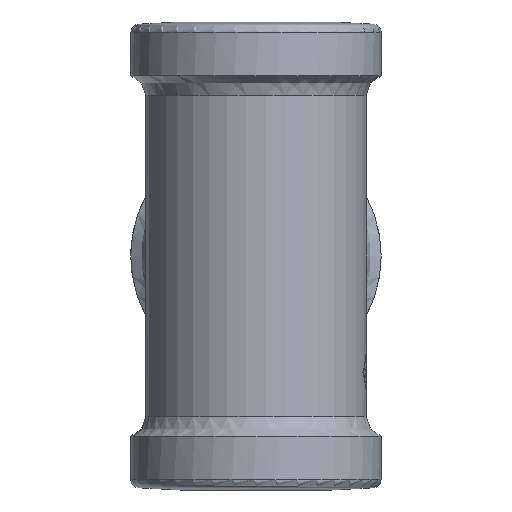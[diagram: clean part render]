
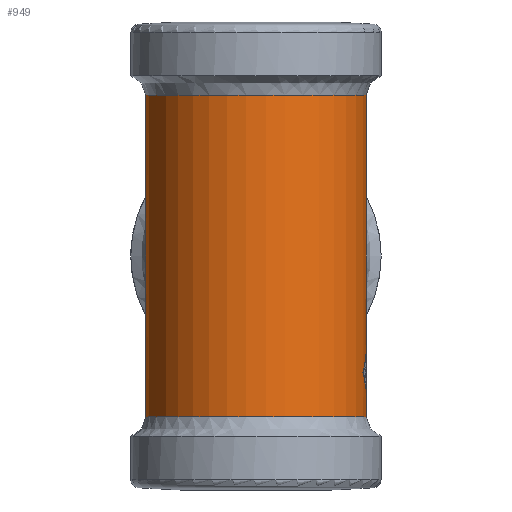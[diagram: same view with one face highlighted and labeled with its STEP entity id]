
A CAD part, front view. The second image highlights one B-rep face of the part: STEP entity #949.
In plain terms, the highlighted cylindrical face has radius 13.4 mm (diameter 26.8 mm), a partial arc.
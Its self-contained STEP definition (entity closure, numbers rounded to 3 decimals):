
#255=CARTESIAN_POINT('',(13.398,-0.253,-10.615));
#256=VERTEX_POINT('',#255);
#257=CARTESIAN_POINT('',(13.083,2.896,-14.114));
#258=VERTEX_POINT('',#257);
#259=CARTESIAN_POINT('',(0.0,0.0,-10.896));
#260=DIRECTION('',(0.0,0.743,0.669));
#261=DIRECTION('',(0.0,0.669,-0.743));
#262=AXIS2_PLACEMENT_3D('',#259,#260,#261);
#263=ELLIPSE('',#262,20.031,13.4);
#264=EDGE_CURVE('',#256,#258,#263,.T.);
#287=CARTESIAN_POINT('',(13.398,-0.253,-17.613));
#288=VERTEX_POINT('',#287);
#289=CARTESIAN_POINT('',(0.0,0.0,-17.332));
#290=DIRECTION('',(0.0,0.743,-0.669));
#291=DIRECTION('',(0.0,0.669,0.743));
#292=AXIS2_PLACEMENT_3D('',#289,#290,#291);
#293=ELLIPSE('',#292,20.031,13.4);
#294=EDGE_CURVE('',#258,#288,#293,.T.);
#312=CARTESIAN_POINT('',(12.961,-3.401,-14.114));
#313=VERTEX_POINT('',#312);
#314=CARTESIAN_POINT('',(0.0,0.0,-10.335));
#315=DIRECTION('',(0.0,-0.743,0.669));
#316=DIRECTION('',(0.0,0.669,0.743));
#317=AXIS2_PLACEMENT_3D('',#314,#315,#316);
#318=ELLIPSE('',#317,20.031,13.4);
#319=EDGE_CURVE('',#313,#256,#318,.T.);
#337=CARTESIAN_POINT('',(0.0,0.0,-17.894));
#338=DIRECTION('',(0.0,-0.743,-0.669));
#339=DIRECTION('',(0.0,0.669,-0.743));
#340=AXIS2_PLACEMENT_3D('',#337,#338,#339);
#341=ELLIPSE('',#340,20.031,13.4);
#342=EDGE_CURVE('',#288,#313,#341,.T.);
#850=CARTESIAN_POINT('',(0.0,0.0,0.0));
#851=DIRECTION('',(0.0,0.0,-1.0));
#852=DIRECTION('',(-1.0,0.0,0.0));
#853=AXIS2_PLACEMENT_3D('',#850,#851,#852);
#854=CYLINDRICAL_SURFACE('',#853,13.4);
#855=CARTESIAN_POINT('',(13.4,0.0,0.0));
#856=VERTEX_POINT('',#855);
#857=CARTESIAN_POINT('',(3.5,12.935,-18.533));
#858=VERTEX_POINT('',#857);
#859=CARTESIAN_POINT('',(0.0,0.0,0.0));
#860=DIRECTION('',(0.0,0.82,0.572));
#861=DIRECTION('',(0.0,0.572,-0.82));
#862=AXIS2_PLACEMENT_3D('',#859,#860,#861);
#863=ELLIPSE('',#862,23.414,13.4);
#864=EDGE_CURVE('',#856,#858,#863,.T.);
#865=ORIENTED_EDGE('',*,*,#864,.F.);
#866=CARTESIAN_POINT('',(3.5,12.935,18.533));
#867=VERTEX_POINT('',#866);
#868=CARTESIAN_POINT('',(0.0,0.0,0.0));
#869=DIRECTION('',(0.0,0.82,-0.572));
#870=DIRECTION('',(0.0,0.572,0.82));
#871=AXIS2_PLACEMENT_3D('',#868,#869,#870);
#872=ELLIPSE('',#871,23.414,13.4);
#873=EDGE_CURVE('',#867,#856,#872,.T.);
#874=ORIENTED_EDGE('',*,*,#873,.F.);
#875=CARTESIAN_POINT('',(3.5,12.935,19.5));
#876=VERTEX_POINT('',#875);
#877=CARTESIAN_POINT('',(3.5,12.935,18.533));
#878=DIRECTION('',(0.0,0.0,1.0));
#879=VECTOR('',#878,0.967);
#880=LINE('',#877,#879);
#881=EDGE_CURVE('',#867,#876,#880,.T.);
#882=ORIENTED_EDGE('',*,*,#881,.T.);
#883=CARTESIAN_POINT('',(-3.5,12.935,19.5));
#884=VERTEX_POINT('',#883);
#885=CARTESIAN_POINT('',(0.0,0.0,19.5));
#886=DIRECTION('',(0.0,0.0,1.0));
#887=DIRECTION('',(0.0,1.0,0.0));
#888=AXIS2_PLACEMENT_3D('',#885,#886,#887);
#889=CIRCLE('',#888,13.4);
#890=EDGE_CURVE('',#884,#876,#889,.T.);
#891=ORIENTED_EDGE('',*,*,#890,.F.);
#892=CARTESIAN_POINT('',(-3.5,12.935,18.533));
#893=VERTEX_POINT('',#892);
#894=CARTESIAN_POINT('',(-3.5,12.935,19.5));
#895=DIRECTION('',(0.0,0.0,-1.0));
#896=VECTOR('',#895,0.967);
#897=LINE('',#894,#896);
#898=EDGE_CURVE('',#884,#893,#897,.T.);
#899=ORIENTED_EDGE('',*,*,#898,.T.);
#900=CARTESIAN_POINT('',(-13.4,0.0,0.0));
#901=VERTEX_POINT('',#900);
#902=CARTESIAN_POINT('',(0.0,0.0,0.0));
#903=DIRECTION('',(0.0,0.82,-0.572));
#904=DIRECTION('',(0.0,0.572,0.82));
#905=AXIS2_PLACEMENT_3D('',#902,#903,#904);
#906=ELLIPSE('',#905,23.414,13.4);
#907=EDGE_CURVE('',#901,#893,#906,.T.);
#908=ORIENTED_EDGE('',*,*,#907,.F.);
#909=CARTESIAN_POINT('',(-3.5,12.935,-18.533));
#910=VERTEX_POINT('',#909);
#911=CARTESIAN_POINT('',(0.0,0.0,0.0));
#912=DIRECTION('',(0.0,0.82,0.572));
#913=DIRECTION('',(0.0,0.572,-0.82));
#914=AXIS2_PLACEMENT_3D('',#911,#912,#913);
#915=ELLIPSE('',#914,23.414,13.4);
#916=EDGE_CURVE('',#910,#901,#915,.T.);
#917=ORIENTED_EDGE('',*,*,#916,.F.);
#918=CARTESIAN_POINT('',(-3.5,12.935,-19.5));
#919=VERTEX_POINT('',#918);
#920=CARTESIAN_POINT('',(-3.5,12.935,-18.533));
#921=DIRECTION('',(0.0,0.0,-1.0));
#922=VECTOR('',#921,0.967);
#923=LINE('',#920,#922);
#924=EDGE_CURVE('',#910,#919,#923,.T.);
#925=ORIENTED_EDGE('',*,*,#924,.T.);
#926=CARTESIAN_POINT('',(3.5,12.935,-19.5));
#927=VERTEX_POINT('',#926);
#928=CARTESIAN_POINT('',(0.0,0.0,-19.5));
#929=DIRECTION('',(0.0,0.0,-1.0));
#930=DIRECTION('',(0.0,1.0,0.0));
#931=AXIS2_PLACEMENT_3D('',#928,#929,#930);
#932=CIRCLE('',#931,13.4);
#933=EDGE_CURVE('',#927,#919,#932,.T.);
#934=ORIENTED_EDGE('',*,*,#933,.F.);
#935=CARTESIAN_POINT('',(3.5,12.935,-19.5));
#936=DIRECTION('',(0.0,0.0,1.0));
#937=VECTOR('',#936,0.967);
#938=LINE('',#935,#937);
#939=EDGE_CURVE('',#927,#858,#938,.T.);
#940=ORIENTED_EDGE('',*,*,#939,.T.);
#941=EDGE_LOOP('',(#865,#874,#882,#891,#899,#908,#917,#925,#934,#940));
#942=FACE_OUTER_BOUND('',#941,.T.);
#943=ORIENTED_EDGE('',*,*,#264,.T.);
#944=ORIENTED_EDGE('',*,*,#294,.T.);
#945=ORIENTED_EDGE('',*,*,#342,.T.);
#946=ORIENTED_EDGE('',*,*,#319,.T.);
#947=EDGE_LOOP('',(#943,#944,#945,#946));
#948=FACE_BOUND('',#947,.T.);
#949=ADVANCED_FACE('',(#942,#948),#854,.T.);
